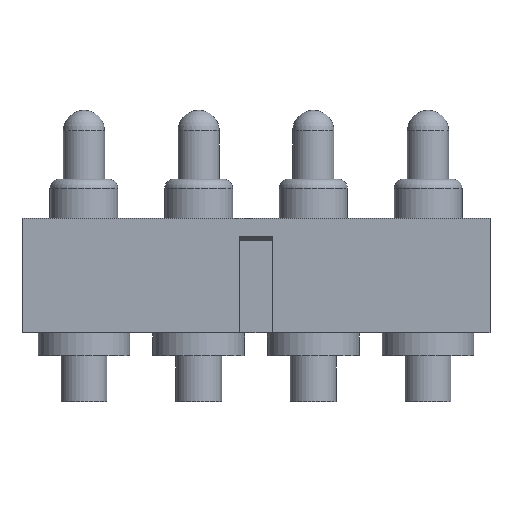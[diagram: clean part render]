
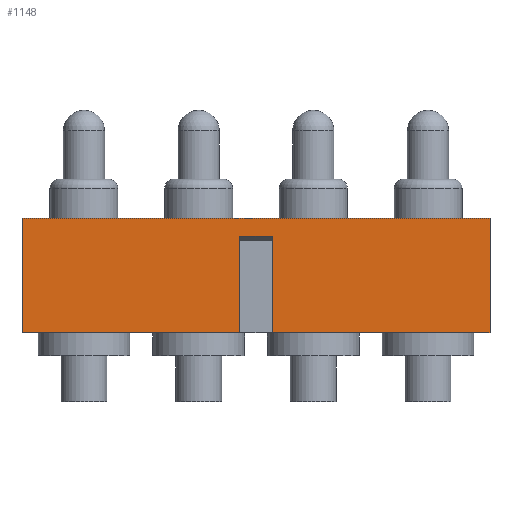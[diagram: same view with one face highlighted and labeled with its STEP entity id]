
A CAD part, top view. The second image highlights one B-rep face of the part: STEP entity #1148.
In plain terms, the highlighted planar face has unit normal (0, 0, 1).
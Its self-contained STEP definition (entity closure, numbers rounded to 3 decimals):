
#61=DIRECTION('',(-1.,0.,0.));
#62=VECTOR('',#61,0.7);
#63=CARTESIAN_POINT('',(0.35,2.1,1.25));
#64=LINE('',#63,#62);
#65=DIRECTION('',(0.,-1.,0.));
#66=VECTOR('',#65,2.1);
#67=CARTESIAN_POINT('',(-0.35,2.1,1.25));
#68=LINE('',#67,#66);
#69=DIRECTION('',(-1.,0.,0.));
#70=VECTOR('',#69,4.75);
#71=CARTESIAN_POINT('',(-0.35,0.,1.25));
#72=LINE('',#71,#70);
#73=DIRECTION('',(0.,-1.,0.));
#74=VECTOR('',#73,2.5);
#75=CARTESIAN_POINT('',(5.1,2.5,1.25));
#76=LINE('',#75,#74);
#77=DIRECTION('',(-1.,0.,0.));
#78=VECTOR('',#77,4.75);
#79=CARTESIAN_POINT('',(5.1,0.,1.25));
#80=LINE('',#79,#78);
#81=DIRECTION('',(0.,1.,0.));
#82=VECTOR('',#81,2.1);
#83=CARTESIAN_POINT('',(0.35,0.,1.25));
#84=LINE('',#83,#82);
#105=DIRECTION('',(0.,-1.,0.));
#106=VECTOR('',#105,2.5);
#107=CARTESIAN_POINT('',(-5.1,2.5,1.25));
#108=LINE('',#107,#106);
#181=DIRECTION('',(-1.,0.,0.));
#182=VECTOR('',#181,10.2);
#183=CARTESIAN_POINT('',(5.1,2.5,1.25));
#184=LINE('',#183,#182);
#826=CARTESIAN_POINT('',(-0.35,0.,1.25));
#828=VERTEX_POINT('',#826);
#831=CARTESIAN_POINT('',(0.35,0.,1.25));
#832=VERTEX_POINT('',#831);
#833=CARTESIAN_POINT('',(5.1,0.,1.25));
#834=VERTEX_POINT('',#833);
#847=CARTESIAN_POINT('',(-5.1,0.,1.25));
#848=VERTEX_POINT('',#847);
#853=CARTESIAN_POINT('',(-5.1,2.5,1.25));
#855=VERTEX_POINT('',#853);
#859=CARTESIAN_POINT('',(5.1,2.5,1.25));
#860=VERTEX_POINT('',#859);
#881=CARTESIAN_POINT('',(0.35,2.1,1.25));
#882=CARTESIAN_POINT('',(-0.35,2.1,1.25));
#883=VERTEX_POINT('',#881);
#884=VERTEX_POINT('',#882);
#1128=CARTESIAN_POINT('',(-5.1,0.,1.25));
#1129=DIRECTION('',(0.,0.,1.));
#1130=DIRECTION('',(1.,0.,0.));
#1131=AXIS2_PLACEMENT_3D('',#1128,#1129,#1130);
#1132=PLANE('',#1131);
#1134=ORIENTED_EDGE('',*,*,#1133,.T.);
#1135=ORIENTED_EDGE('',*,*,#1118,.T.);
#1136=ORIENTED_EDGE('',*,*,#1084,.T.);
#1138=ORIENTED_EDGE('',*,*,#1137,.F.);
#1140=ORIENTED_EDGE('',*,*,#1139,.F.);
#1142=ORIENTED_EDGE('',*,*,#1141,.T.);
#1143=ORIENTED_EDGE('',*,*,#1068,.T.);
#1145=ORIENTED_EDGE('',*,*,#1144,.T.);
#1146=EDGE_LOOP('',(#1134,#1135,#1136,#1138,#1140,#1142,#1143,#1145));
#1147=FACE_OUTER_BOUND('',#1146,.F.);
#1148=ADVANCED_FACE('',(#1147),#1132,.T.);
#1068=EDGE_CURVE('',#834,#832,#80,.T.);
#1084=EDGE_CURVE('',#828,#848,#72,.T.);
#1118=EDGE_CURVE('',#884,#828,#68,.T.);
#1133=EDGE_CURVE('',#883,#884,#64,.T.);
#1137=EDGE_CURVE('',#855,#848,#108,.T.);
#1139=EDGE_CURVE('',#860,#855,#184,.T.);
#1141=EDGE_CURVE('',#860,#834,#76,.T.);
#1144=EDGE_CURVE('',#832,#883,#84,.T.);
